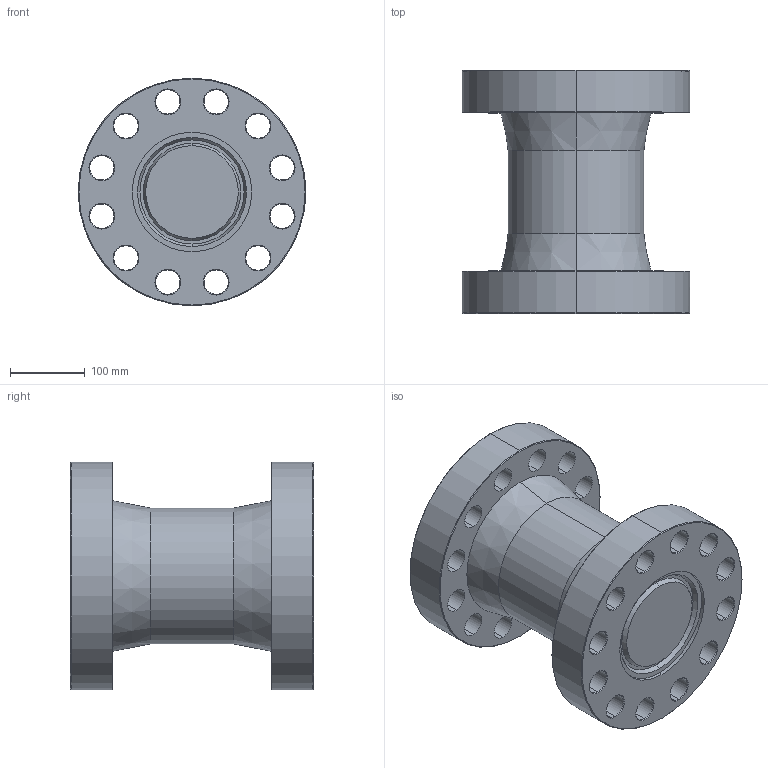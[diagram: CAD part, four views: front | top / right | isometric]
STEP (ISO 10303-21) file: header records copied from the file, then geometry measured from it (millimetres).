
FILE_DESCRIPTION (( 'STEP AP203' ), '1' );
FILE_NAME ('LCF10(150-250t).STEP', '2024-07-16T08:01:40', ( '' ), ( '' ), 'SwSTEP 2.0', 'SolidWorks 2019', '' );
FILE_SCHEMA (( 'CONFIG_CONTROL_DESIGN' ));
Length unit declared in the file: millimetre
Products named in the file (1): LCF10(150-250t)
Bounding box: 305 x 326 x 305 mm (x, y, z)
Volume: 12755764.5 mm3; surface area: 571222.9 mm2
Topology: 1 solids, 1 shells, 172 faces, 395 edges, 242 vertices
Faces by surface type: cylinder 77, cone 73, plane 22
Entity records: 5159 total; most frequent: DIRECTION 970, CARTESIAN_POINT 904, ORIENTED_EDGE 790, AXIS2_PLACEMENT_3D 406, EDGE_CURVE 395, VERTEX_POINT 242, EDGE_LOOP 237, CIRCLE 233
